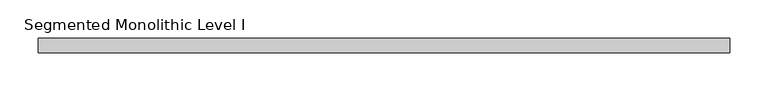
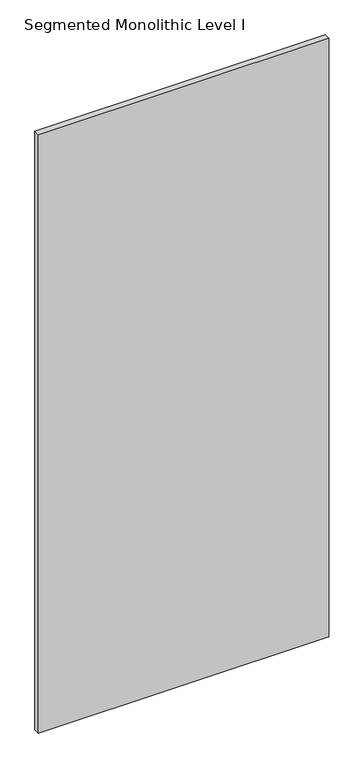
"""IFC4 building model written with IfcOpenShell, lengths in millimetres: proxy geometry, Panel-Fascia-Teknion-Altos-Standard : Segmented Monolithic Level I."""

from ifc_helpers import new_model, si_unit, frame, origin, place, context, project, spatial, polyline, outline, extrude, source, transform, mapped, element, save


def segmented_monolithic_level_i_a660c2bd(model_context):
    return source(origin(), model_context, "Body", "SweptSolid", [
        extrude(outline(polyline([(454.025, 9.525), (454.025, -9.525), (-454.025, -9.525), (-454.025, 9.525), (454.025, 9.525)])), frame((0.0, 0.0, 3.175), z_axis=(0.0, 0.0, 1.0), x_axis=(1.0, 0.0, 0.0)), (0.0, 0.0, 1.0), 1979.168),
    ])


if __name__ == "__main__":
    model = new_model("IFC4")
    model_context = context("Model", 3, world=origin())
    ifc_project = project(units=[si_unit("LENGTHUNIT", "METRE", prefix="MILLI")], contexts=[model_context])
    site = spatial("IfcSite", under=ifc_project)
    building = spatial("IfcBuilding", under=site)
    placement = place(None, origin())
    segmented_monolithic_level_i_shape = segmented_monolithic_level_i_a660c2bd(model_context)
    element("IfcBuildingElementProxy", 1, Name="Panel-Fascia-Teknion-Altos-Standard : Segmented Monolithic Level I", ObjectType="Panel-Fascia-Teknion-Altos-Standard : Segmented Monolithic Level I", at=placement, inside=building, context=model_context, shape_type="MappedRepresentation", body=[
        mapped(segmented_monolithic_level_i_shape, transform((0.0, 0.0, 0.0), x_axis=(1.0, 0.0, 0.0), y_axis=(0.0, 1.0, 0.0), z_axis=(0.0, 0.0, 1.0))),
    ])
    save(model, "model.ifc")
